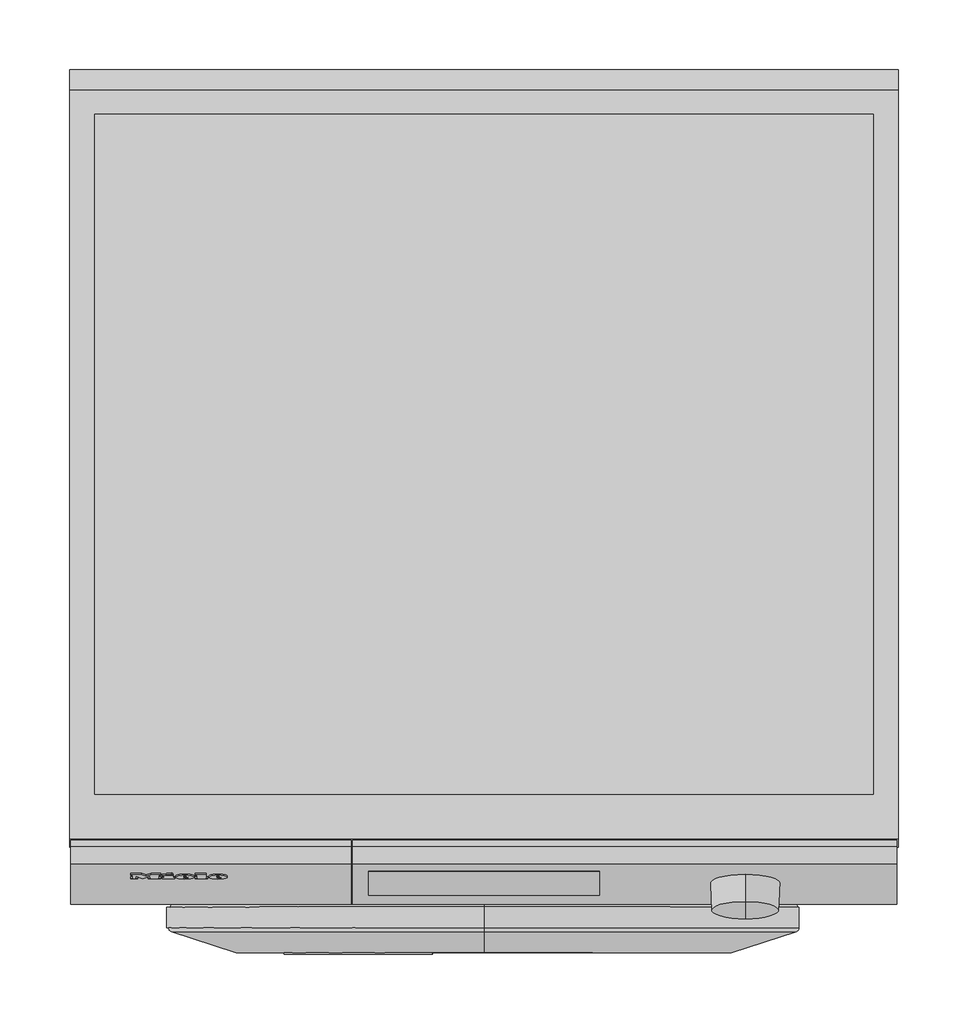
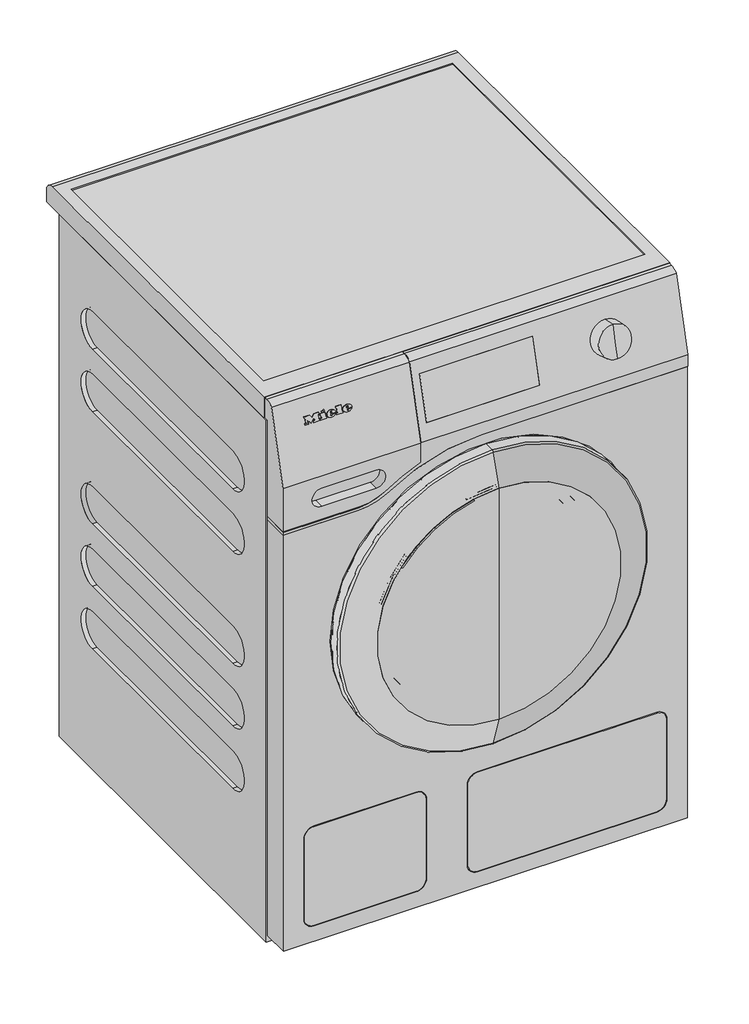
# Not in any storey: 1 proxy.
"""IFC4 building model written with IfcOpenShell, lengths in millimetres."""

from ifc_helpers import new_model, si_unit, origin, place, context, project, spatial, transform, mapped, element, save
from components import specialty_equipment_345730a7, specialty_equipment_badbdaf0

model = new_model("IFC4")

# Units and contexts
model_context = context("Model", 3, world=origin())
ifc_project = project(units=[si_unit("LENGTHUNIT", "METRE", prefix="MILLI")], contexts=[model_context])

# Site, building
site = spatial("IfcSite", under=ifc_project)
building = spatial("IfcBuilding", under=site)

# Proxy
placement = place(None, origin())
specialty_equipment_shape = specialty_equipment_345730a7(model_context)
specialty_equipment_2_shape = specialty_equipment_badbdaf0(model_context)
element("IfcBuildingElementProxy", 1, Name="12434550_FIN_WCB690WCS_LW : 11CB6901_FIN_12434550_WCB690WCS_LW", ObjectType="12434550_FIN_WCB690WCS_LW : 11CB6901_FIN_12434550_WCB690WCS_LW", at=placement, inside=building, context=model_context, shape_type="MappedRepresentation", body=[
    mapped(specialty_equipment_shape, transform((0.0, 0.0, 0.0), x_axis=(1.0, 0.0, 0.0), y_axis=(0.0, 1.0, 0.0), z_axis=(0.0, 0.0, 1.0))),
    mapped(specialty_equipment_2_shape, transform((0.0, 0.0, 0.0), x_axis=(1.0, 0.0, 0.0), y_axis=(0.0, 1.0, 0.0), z_axis=(0.0, 0.0, 1.0))),
])

save(model, "model.ifc")
